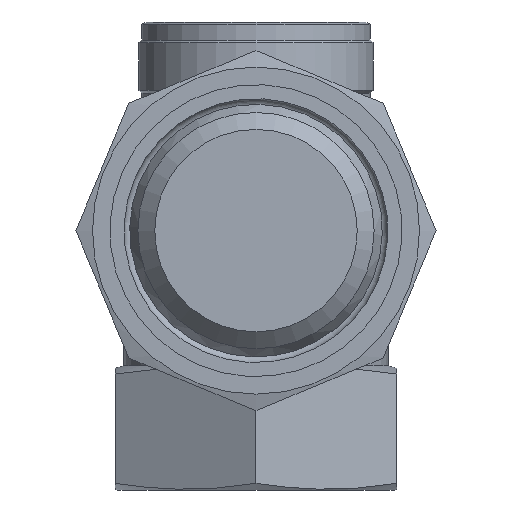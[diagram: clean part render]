
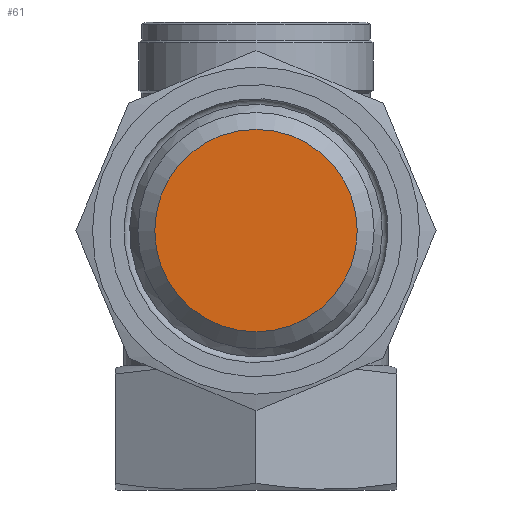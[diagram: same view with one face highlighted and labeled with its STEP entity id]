
A CAD part, front view. The second image highlights one B-rep face of the part: STEP entity #61.
In plain terms, the highlighted planar face has unit normal (0, -1, 0).
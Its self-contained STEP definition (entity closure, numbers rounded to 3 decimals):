
#61=ADVANCED_FACE('',(#334),#336,.T.);
#334=FACE_BOUND('',#335,.T.);
#335=EDGE_LOOP('',(#1236));
#336=PLANE('',#337);
#337=AXIS2_PLACEMENT_3D('',#338,#339,#340);
#338=CARTESIAN_POINT('',(0.,-52.,0.));
#339=DIRECTION('',(0.,-1.,0.));
#340=DIRECTION('',(1.,0.,0.));
#1236=ORIENTED_EDGE('',*,*,#1971,.T.);
#1971=EDGE_CURVE('',#2305,#2305,#2306,.T.);
#2305=VERTEX_POINT('',#2906);
#2306=CIRCLE('',#2907,8.978);
#2906=CARTESIAN_POINT('',(0.,-52.,-8.978));
#2907=AXIS2_PLACEMENT_3D('',#2908,#2909,#2910);
#2908=CARTESIAN_POINT('',(0.,-52.,0.));
#2909=DIRECTION('',(0.,-1.,0.));
#2910=DIRECTION('',(0.,0.,-1.));
